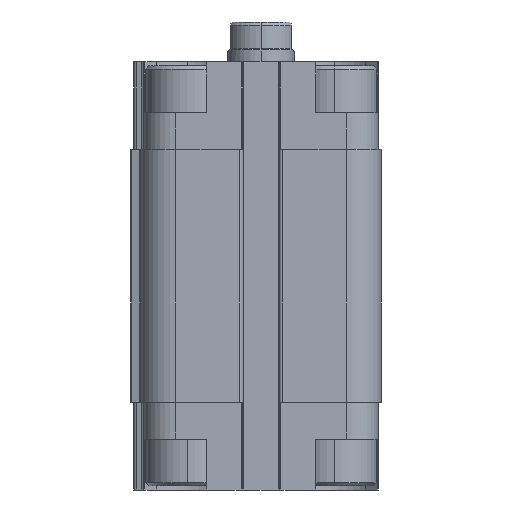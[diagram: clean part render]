
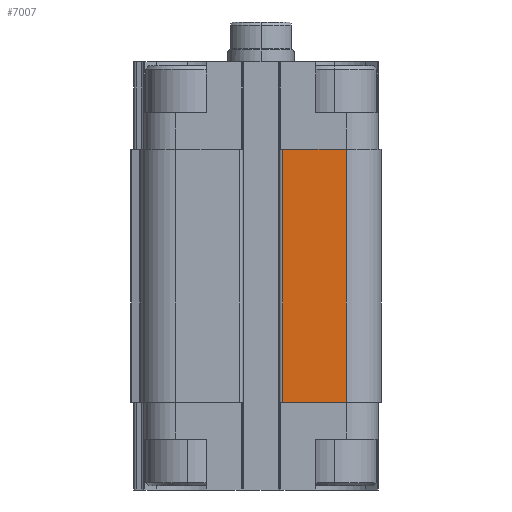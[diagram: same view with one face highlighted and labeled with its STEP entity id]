
A CAD part, left-side view. The second image highlights one B-rep face of the part: STEP entity #7007.
In plain terms, the highlighted planar face has unit normal (-1, 0, 0).
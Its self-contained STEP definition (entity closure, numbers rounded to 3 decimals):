
#1805 = VERTEX_POINT ( 'NONE', #4564 ) ;
#1806 = VERTEX_POINT ( 'NONE', #4565 ) ;
#2065 = EDGE_CURVE ( 'NONE', #6629, #6630, #5564, .T. ) ;
#2109 = EDGE_CURVE ( 'NONE', #1806, #1805, #5625, .T. ) ;
#2354 = EDGE_LOOP ( 'NONE', ( #2679, #2700, #2697, #2691 ) ) ;
#2679 = ORIENTED_EDGE ( 'NONE', *, *, #2065, .F. ) ;
#2691 = ORIENTED_EDGE ( 'NONE', *, *, #6758, .F. ) ;
#2697 = ORIENTED_EDGE ( 'NONE', *, *, #2109, .T. ) ;
#2700 = ORIENTED_EDGE ( 'NONE', *, *, #6757, .T. ) ;
#4564 = CARTESIAN_POINT ( 'NONE',  ( -18., -12.75, 0. ) ) ;
#4565 = CARTESIAN_POINT ( 'NONE',  ( -18., -3.225, 0. ) ) ;
#4812 = DIRECTION ( 'NONE',  ( 0., -1., 0. ) ) ;
#4818 = CARTESIAN_POINT ( 'NONE',  ( -18., 12.75, 37.8 ) ) ;
#4928 = DIRECTION ( 'NONE',  ( 0., -1., 0. ) ) ;
#4930 = CARTESIAN_POINT ( 'NONE',  ( -18., 12.75, 0. ) ) ;
#5204 = AXIS2_PLACEMENT_3D ( 'NONE', #9765, #9774, #9775 ) ;
#5559 = VECTOR ( 'NONE', #4812, 1000. ) ;
#5564 = LINE ( 'NONE', #4818, #5559 ) ;
#5625 = LINE ( 'NONE', #4930, #5629 ) ;
#5629 = VECTOR ( 'NONE', #4928, 1000. ) ;
#6629 = VERTEX_POINT ( 'NONE', #8285 ) ;
#6630 = VERTEX_POINT ( 'NONE', #8286 ) ;
#6757 = EDGE_CURVE ( 'NONE', #6629, #1806, #8544, .T. ) ;
#6758 = EDGE_CURVE ( 'NONE', #6630, #1805, #8549, .T. ) ;
#7007 = ADVANCED_FACE ( 'NONE', ( #8991 ), #9772, .F. ) ;
#8285 = CARTESIAN_POINT ( 'NONE',  ( -18., -3.225, 37.8 ) ) ;
#8286 = CARTESIAN_POINT ( 'NONE',  ( -18., -12.75, 37.8 ) ) ;
#8544 = LINE ( 'NONE', #9156, #8550 ) ;
#8549 = LINE ( 'NONE', #9162, #8552 ) ;
#8550 = VECTOR ( 'NONE', #9161, 1000. ) ;
#8552 = VECTOR ( 'NONE', #9163, 1000. ) ;
#8991 = FACE_OUTER_BOUND ( 'NONE', #2354, .T. ) ;
#9156 = CARTESIAN_POINT ( 'NONE',  ( -18., -3.225, 37.8 ) ) ;
#9161 = DIRECTION ( 'NONE',  ( 0., 0., -1. ) ) ;
#9162 = CARTESIAN_POINT ( 'NONE',  ( -18., -12.75, 37.8 ) ) ;
#9163 = DIRECTION ( 'NONE',  ( 0., 0., -1. ) ) ;
#9765 = CARTESIAN_POINT ( 'NONE',  ( -18., 12.75, 37.8 ) ) ;
#9772 = PLANE ( 'NONE',  #5204 ) ;
#9774 = DIRECTION ( 'NONE',  ( 1., 0., 0. ) ) ;
#9775 = DIRECTION ( 'NONE',  ( 0., 1., 0. ) ) ;
